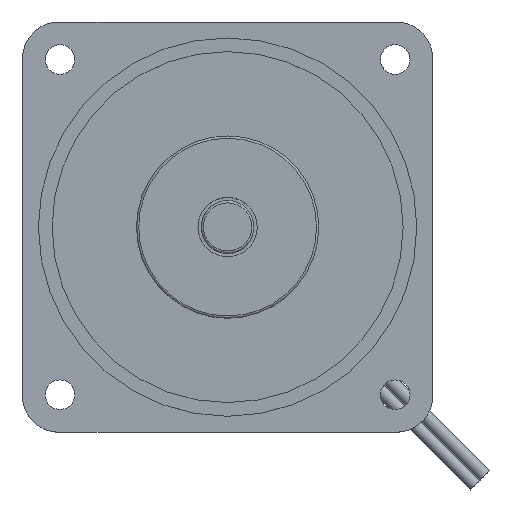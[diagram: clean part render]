
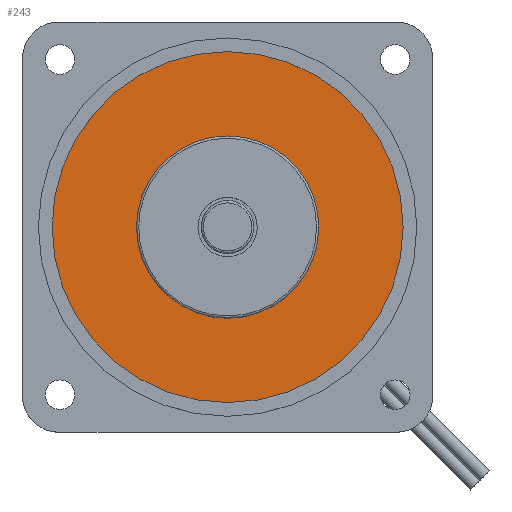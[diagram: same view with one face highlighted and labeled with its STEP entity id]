
A CAD part, top view. The second image highlights one B-rep face of the part: STEP entity #243.
In plain terms, the highlighted planar face has unit normal (0, 0, 1).
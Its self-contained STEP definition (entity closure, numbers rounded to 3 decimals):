
#101=CARTESIAN_POINT('',(0.,-20.0,24.5));
#102=VERTEX_POINT('',#101);
#103=CARTESIAN_POINT('',(0.0,0.0,24.5));
#104=DIRECTION('',(0.0,0.0,1.0));
#105=DIRECTION('',(0.0,1.0,0.0));
#106=AXIS2_PLACEMENT_3D('',#103,#104,#105);
#107=CIRCLE('',#106,20.0);
#108=EDGE_CURVE('',#102,#102,#107,.T.);
#209=CARTESIAN_POINT('',(0.,-38.5,24.5));
#210=VERTEX_POINT('',#209);
#211=CARTESIAN_POINT('',(0.0,0.0,24.5));
#212=DIRECTION('',(0.0,0.0,1.0));
#213=DIRECTION('',(0.0,1.0,0.0));
#214=AXIS2_PLACEMENT_3D('',#211,#212,#213);
#215=CIRCLE('',#214,38.5);
#216=EDGE_CURVE('',#210,#210,#215,.T.);
#232=CARTESIAN_POINT('',(0.0,0.0,24.5));
#233=DIRECTION('',(0.0,0.0,-1.0));
#234=DIRECTION('',(0.0,1.0,0.0));
#235=AXIS2_PLACEMENT_3D('',#232,#233,#234);
#236=PLANE('',#235);
#237=ORIENTED_EDGE('',*,*,#216,.T.);
#238=EDGE_LOOP('',(#237));
#239=FACE_OUTER_BOUND('',#238,.T.);
#240=ORIENTED_EDGE('',*,*,#108,.F.);
#241=EDGE_LOOP('',(#240));
#242=FACE_BOUND('',#241,.T.);
#243=ADVANCED_FACE('',(#239,#242),#236,.F.);
